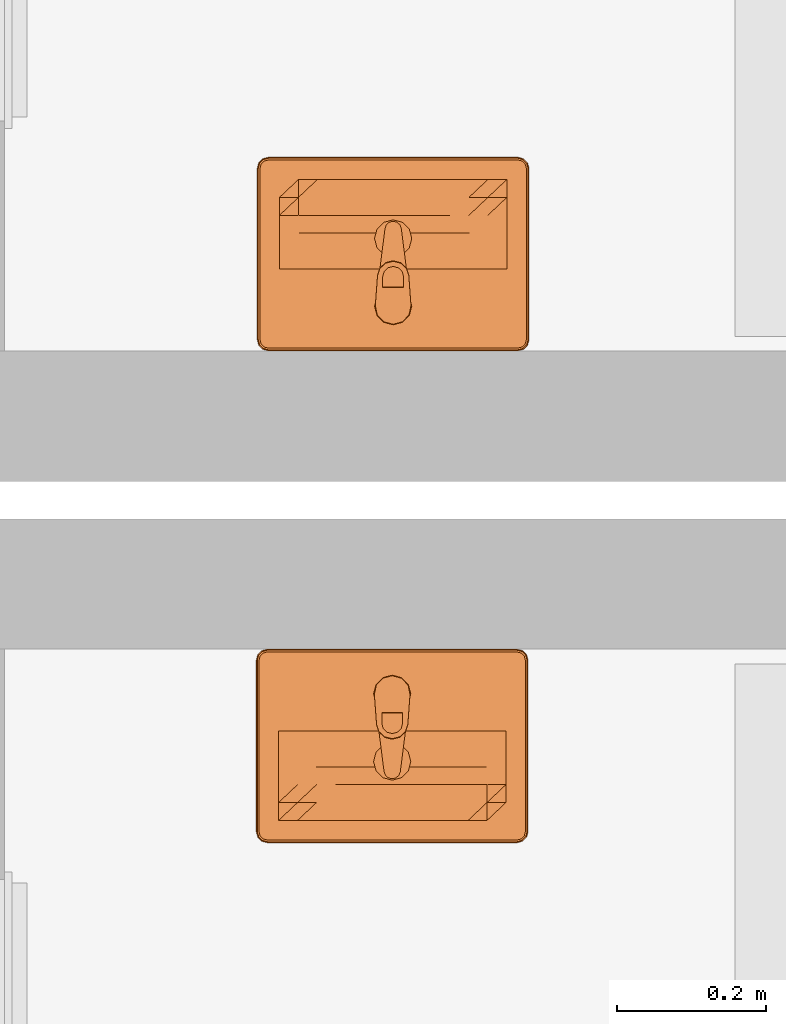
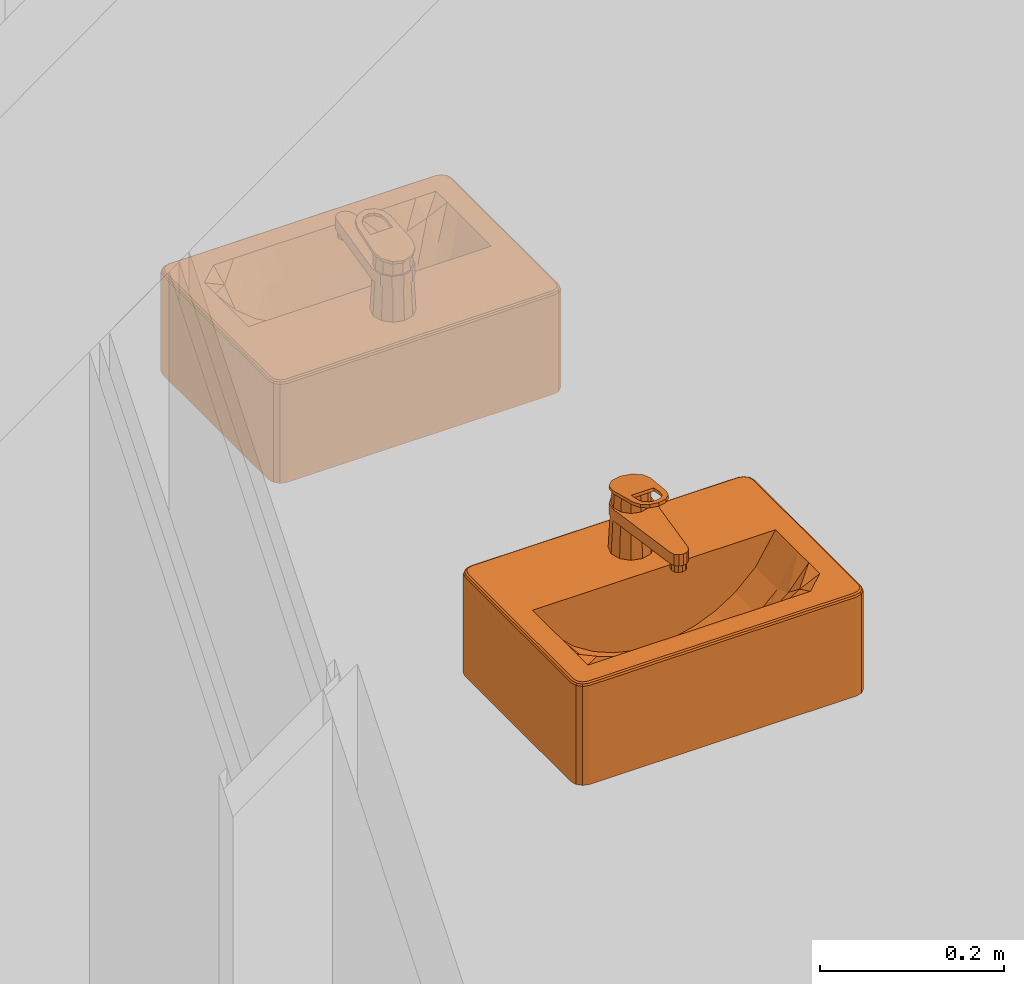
# One storey, part 16 of 28: 2 proxies.
"""IFC4 building model written with IfcOpenShell, lengths in metres."""

from ifc_helpers import new_model, entity, si_unit, converted_unit, derived_unit, direction, frame, origin_with_axes, place, context, subcontext, project, spatial, triangles, source, transform, mapped, type_object, element, save


model = new_model("IFC4")

# Units and contexts
model_context = context("Model", 3, precision=1e-05, world=origin_with_axes(), true_north=direction((-0.526213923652, 0.850352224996)))
body_context = subcontext(model_context, "Body", "Model", "MODEL_VIEW")
ifc_project = project(units=[si_unit("LENGTHUNIT", "METRE"), si_unit("AREAUNIT", "SQUARE_METRE"), si_unit("VOLUMEUNIT", "CUBIC_METRE"), converted_unit("PLANEANGLEUNIT", "DEGREE", entity("IfcPlaneAngleMeasure", 0.0174532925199), si_unit("PLANEANGLEUNIT", "RADIAN"), dimensions=[0, 0, 0, 0, 0, 0, 0]), si_unit("SOLIDANGLEUNIT", "STERADIAN"), converted_unit("TIMEUNIT", "Year", entity("IfcTimeMeasure", 31556926.0), si_unit("TIMEUNIT", "SECOND"), dimensions=[0, 0, 1, 0, 0, 0, 0]), si_unit("MASSUNIT", "GRAM", prefix="KILO"), si_unit("THERMODYNAMICTEMPERATUREUNIT", "DEGREE_CELSIUS"), si_unit("LUMINOUSINTENSITYUNIT", "LUMEN"), si_unit("ENERGYUNIT", "JOULE", prefix="MEGA"), derived_unit("THERMALCONDUCTANCEUNIT", [(si_unit("POWERUNIT", "WATT"), 1), (si_unit("LENGTHUNIT", "METRE"), -1), (si_unit("THERMODYNAMICTEMPERATUREUNIT", "KELVIN"), -1)]), derived_unit("SPECIFICHEATCAPACITYUNIT", [(si_unit("ENERGYUNIT", "JOULE"), 1), (si_unit("MASSUNIT", "GRAM", prefix="KILO"), -1), (si_unit("THERMODYNAMICTEMPERATUREUNIT", "KELVIN"), -1)]), derived_unit("MASSDENSITYUNIT", [(si_unit("MASSUNIT", "GRAM", prefix="KILO"), 1), (si_unit("VOLUMEUNIT", "CUBIC_METRE"), -1)])], contexts=[model_context])

# Site, building, storey, space
site_placement = place(None, origin_with_axes())
site = spatial("IfcSite", under=ifc_project, at=site_placement, Name="Gelände", CompositionType="ELEMENT")
building_placement = place(site_placement, origin_with_axes())
building = spatial("IfcBuilding", under=site, at=building_placement, Name="Haus vom Nikolaus", CompositionType="ELEMENT")
storey_placement = place(building_placement, origin_with_axes())
storey = spatial("IfcBuildingStorey", under=building, at=storey_placement, Name="EG", CompositionType="ELEMENT", Elevation=0.0)
space_placement = place(storey_placement, frame((-3.09538684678, 5.36483190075, 0.0), z_axis=(0.0, 0.0, 1.0), x_axis=(1.0, 0.0, 0.0)))
space = spatial("IfcSpace", under=storey, at=space_placement, Name="EG", CompositionType="ELEMENT")

# Proxies
building_element_proxy_type = type_object("IfcBuildingElementProxyType", Name="Waschbecken 1 22", PredefinedType="NOTDEFINED")
shared_shape = source(origin_with_axes(), body_context, "Body", "Tessellation", [
    triangles([(0.1825, -0.015, 0.865), (0.175, -0.00200961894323, 0.865), (0.180490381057, -0.0075, 0.865), (-0.180490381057, -0.2525, 0.865), (-0.1675, -0.26, 0.865), (-0.175, -0.257990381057, 0.865), (-0.1825, -0.245, 0.865), (-0.1525, -0.11, 0.865), (-0.1825, -0.015, 0.865), (-0.1675, 0.0, 0.865), (-0.175, -0.00200961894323, 0.865), (-0.180490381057, -0.0075, 0.865), (0.1675, 0.0, 0.865), (0.1525, -0.11, 0.865), (0.1525, -0.23, 0.865), (0.1825, -0.245, 0.865), (0.1675, -0.26, 0.865), (0.175, -0.257990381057, 0.865), (0.180490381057, -0.2525, 0.865), (-0.1525, -0.23, 0.865), (-0.167499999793, -0.26000000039, 0.995), (0.167500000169, -0.26000000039, 0.995), (-0.175000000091, -0.257990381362, 0.995), (-0.180490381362, -0.252500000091, 0.995), (-0.18250000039, -0.244999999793, 0.995), (-0.18250000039, -0.0150000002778, 0.995), (-0.180490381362, -0.00749999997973, 0.995), (-0.175000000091, -0.00200961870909, 0.995), (-0.167499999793, 3.18288784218e-10, 0.995), (0.167500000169, 3.18288784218e-10, 0.995), (0.174999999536, -0.00200961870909, 0.995), (0.180490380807, -0.00749999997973, 0.995), (0.182499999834, -0.0150000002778, 0.995), (0.182499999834, -0.244999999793, 0.995), (0.180490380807, -0.252500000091, 0.995), (0.174999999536, -0.257990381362, 0.995), (-0.1525, -0.23, 0.999999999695), (0.1525, -0.23, 0.999999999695), (0.1525, -0.11, 0.999999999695), (-0.1525, -0.11, 0.999999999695), (0.167477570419, -0.259829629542, 0.996294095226), (-0.167477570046, -0.259829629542, 0.996294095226), (-0.174911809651, -0.257837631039, 0.996294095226), (-0.180337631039, -0.252411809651, 0.996294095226), (-0.182329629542, -0.244977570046, 0.996294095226), (-0.182329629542, -0.0150224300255, 0.996294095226), (-0.180337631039, -0.00758819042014, 0.996294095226), (-0.174911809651, -0.00216236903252, 0.996294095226), (-0.167477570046, -0.000170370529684, 0.996294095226), (0.167477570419, -0.000170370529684, 0.996294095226), (0.174911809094, -0.00216236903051, 0.996294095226), (0.180337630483, -0.00758819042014, 0.996294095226), (0.182329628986, -0.0150224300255, 0.996294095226), (0.182329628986, -0.244977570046, 0.996294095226), (0.180337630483, -0.252411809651, 0.996294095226), (0.174911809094, -0.257837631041, 0.996294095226), (-0.172411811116, -0.253507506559, 0.999999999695), (-0.177500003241, -0.24434173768, 0.999999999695), (-0.176007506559, -0.249911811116, 0.999999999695), (-0.177500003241, -0.0156582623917, 0.999999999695), (-0.16684173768, -0.0049999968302, 0.999999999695), (-0.176007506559, -0.0100881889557, 0.999999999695), (-0.172411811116, -0.00649249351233, 0.999999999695), (-0.16684173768, -0.255000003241, 0.999999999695), (0.176007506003, -0.249911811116, 0.999999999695), (0.166841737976, -0.255000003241, 0.999999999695), (0.172411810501, -0.253507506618, 0.999999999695), (0.177500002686, -0.24434173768, 0.999999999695), (0.177500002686, -0.0156582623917, 0.999999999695), (0.166841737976, -0.0049999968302, 0.999999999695), (0.176007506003, -0.0100881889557, 0.999999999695), (0.172411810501, -0.00649249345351, 0.999999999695), (0.167307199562, -0.258535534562, 0.998535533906), (-0.167307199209, -0.258535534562, 0.998535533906), (-0.174241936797, -0.256677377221, 0.998535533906), (-0.179177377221, -0.251741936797, 0.998535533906), (-0.181035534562, -0.244807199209, 0.998535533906), (-0.181035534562, -0.015192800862, 0.998535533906), (-0.179177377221, -0.00825806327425, 0.998535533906), (-0.174241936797, -0.00332262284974, 0.998535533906), (-0.167307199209, -0.00146446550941, 0.998535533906), (0.167307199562, -0.00146446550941, 0.998535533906), (0.174241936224, -0.00332262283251, 0.998535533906), (0.179177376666, -0.00825806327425, 0.998535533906), (0.181035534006, -0.015192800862, 0.998535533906), (0.181035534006, -0.244807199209, 0.998535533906), (0.179177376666, -0.251741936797, 0.998535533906), (0.174241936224, -0.256677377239, 0.998535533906), (-0.167012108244, -0.00370590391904, 0.999829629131), (-0.173081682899, -0.00533224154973, 0.999829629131), (-0.177167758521, -0.00941831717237, 0.999829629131), (-0.178794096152, -0.0154878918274, 0.999829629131), (-0.178794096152, -0.244512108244, 0.999829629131), (-0.177167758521, -0.250581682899, 0.999829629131), (-0.173081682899, -0.254667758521, 0.999829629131), (-0.167012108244, -0.256294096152, 0.999829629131), (0.167012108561, -0.256294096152, 0.999829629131), (0.1730816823, -0.254667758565, 0.999829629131), (0.177167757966, -0.250581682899, 0.999829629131), (0.178794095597, -0.244512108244, 0.999829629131), (0.178794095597, -0.0154878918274, 0.999829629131), (0.177167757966, -0.00941831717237, 0.999829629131), (0.1730816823, -0.00533224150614, 0.999829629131), (0.167012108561, -0.00370590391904, 0.999829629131)], [[1, 2, 3], [4, 5, 6], [7, 5, 4], [8, 7, 9], [8, 9, 10], [11, 9, 12], [8, 13, 14], [10, 9, 11], [2, 1, 13], [15, 16, 17], [14, 16, 15], [18, 16, 19], [16, 18, 17], [20, 17, 5], [7, 20, 5], [16, 14, 1], [20, 15, 17], [1, 14, 13], [7, 8, 20], [13, 8, 10], [21, 17, 22], [21, 5, 17], [23, 5, 21], [23, 6, 5], [24, 6, 23], [24, 4, 6], [7, 24, 25], [24, 7, 4], [26, 7, 25], [26, 9, 7], [27, 9, 26], [27, 12, 9], [28, 12, 27], [28, 11, 12], [10, 28, 29], [28, 10, 11], [13, 29, 30], [29, 13, 10], [31, 13, 30], [31, 2, 13], [32, 2, 31], [32, 3, 2], [1, 32, 33], [32, 1, 3], [16, 33, 34], [33, 16, 1], [35, 16, 34], [35, 19, 16], [18, 35, 36], [35, 18, 19], [17, 36, 22], [36, 17, 18], [15, 37, 38], [15, 20, 37], [14, 38, 39], [14, 15, 38], [8, 39, 40], [8, 14, 39], [20, 40, 37], [20, 8, 40], [21, 41, 42], [41, 21, 22], [43, 21, 42], [43, 23, 21], [44, 23, 43], [44, 24, 23], [25, 44, 45], [44, 25, 24], [26, 45, 46], [45, 26, 25], [47, 26, 46], [47, 27, 26], [48, 27, 47], [48, 28, 27], [29, 48, 49], [48, 29, 28], [50, 29, 49], [50, 30, 29], [51, 30, 50], [51, 31, 30], [52, 31, 51], [52, 32, 31], [33, 52, 53], [52, 33, 32], [34, 53, 54], [53, 34, 33], [55, 34, 54], [55, 35, 34], [36, 55, 56], [55, 36, 35], [22, 56, 41], [56, 22, 36], [57, 58, 59], [60, 61, 62], [62, 61, 63], [40, 58, 37], [64, 58, 57], [37, 58, 64], [65, 66, 67], [68, 66, 65], [39, 69, 70], [70, 71, 72], [69, 39, 68], [71, 70, 69], [58, 40, 60], [38, 64, 66], [39, 61, 40], [60, 40, 61], [38, 68, 39], [61, 39, 70], [64, 38, 37], [68, 38, 66], [42, 73, 74], [73, 42, 41], [75, 42, 74], [75, 43, 42], [76, 43, 75], [76, 44, 43], [45, 76, 77], [76, 45, 44], [78, 45, 77], [78, 46, 45], [79, 46, 78], [79, 47, 46], [80, 47, 79], [80, 48, 47], [49, 80, 81], [80, 49, 48], [82, 49, 81], [82, 50, 49], [83, 50, 82], [83, 51, 50], [84, 51, 83], [84, 52, 51], [53, 84, 85], [84, 53, 52], [86, 53, 85], [86, 54, 53], [87, 54, 86], [87, 55, 54], [56, 87, 88], [87, 56, 55], [41, 88, 73], [88, 41, 56], [89, 63, 61], [63, 89, 90], [90, 62, 63], [62, 90, 91], [62, 92, 60], [62, 91, 92], [92, 58, 60], [58, 92, 93], [93, 59, 58], [59, 93, 94], [59, 95, 57], [59, 94, 95], [57, 96, 64], [57, 95, 96], [96, 66, 64], [66, 96, 97], [97, 67, 66], [67, 97, 98], [98, 65, 67], [65, 98, 99], [65, 100, 68], [65, 99, 100], [68, 101, 69], [68, 100, 101], [101, 71, 69], [71, 101, 102], [71, 103, 72], [71, 102, 103], [72, 104, 70], [72, 103, 104], [70, 89, 61], [70, 104, 89], [74, 97, 96], [97, 74, 73], [95, 74, 96], [95, 75, 74], [76, 95, 94], [95, 76, 75], [77, 94, 93], [94, 77, 76], [78, 93, 92], [93, 78, 77], [91, 78, 92], [91, 79, 78], [90, 79, 91], [90, 80, 79], [81, 90, 89], [90, 81, 80], [104, 81, 89], [104, 82, 81], [103, 82, 104], [103, 83, 82], [102, 83, 103], [102, 84, 83], [85, 102, 101], [102, 85, 84], [86, 101, 100], [101, 86, 85], [99, 86, 100], [99, 87, 86], [88, 99, 98], [99, 88, 87], [73, 98, 97], [98, 73, 88]], closed=True),
    triangles([(0.025, -0.150905, 0.865), (0.1525, -0.23, 0.865), (0.0216506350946, -0.163405, 0.865), (0.0125, -0.129254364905, 0.865), (0.1525, -0.11, 0.865), (0.0216506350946, -0.138405, 0.865), (0.0125, -0.172555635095, 0.865), (0.0, -0.175905, 0.865), (-0.1525, -0.23, 0.865), (-0.0125, -0.129254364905, 0.865), (-0.1525, -0.11, 0.865), (0.0, -0.125905, 0.865), (-0.025, -0.150905, 0.865), (-0.0216506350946, -0.138405, 0.865), (-0.0216506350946, -0.163405, 0.865), (-0.0125, -0.172555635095, 0.865), (-0.1525, -0.158, 1.0), (-0.1525, -0.182, 1.0), (-0.1525, -0.134, 1.0), (-0.1525, -0.11, 1.0), (-0.1525, -0.206, 1.0), (-0.1525, -0.23, 1.0), (0.07625, -0.11, 0.918513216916), (0.101666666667, -0.11, 0.934701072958), (0.127083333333, -0.11, 0.959046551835), (0.1525, -0.11, 1.0), (-0.127083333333, -0.11, 0.959046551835), (-0.101666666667, -0.11, 0.934701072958), (-0.07625, -0.11, 0.918513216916), (-0.0508333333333, -0.11, 0.907960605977), (0.0, -0.11, 0.9), (-0.0254166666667, -0.11, 0.901953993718), (0.0254166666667, -0.11, 0.901953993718), (0.0508333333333, -0.11, 0.907960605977), (0.1525, -0.158, 1.0), (0.1525, -0.182, 1.0), (0.1525, -0.206, 1.0), (0.1525, -0.23, 1.0), (0.1525, -0.134, 1.0), (0.0254166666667, -0.23, 1.0), (0.0508333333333, -0.23, 1.0), (-0.101666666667, -0.23, 1.0), (-0.127083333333, -0.23, 1.0), (-0.07625, -0.23, 1.0), (-0.0508333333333, -0.23, 1.0), (0.127083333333, -0.23, 1.0), (0.101666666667, -0.23, 1.0), (0.07625, -0.23, 1.0), (0.0, -0.23, 1.0), (-0.0254166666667, -0.23, 1.0), (0.0216506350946, -0.163405, 0.905723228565), (0.0125, -0.172555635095, 0.911910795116), (0.022313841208, -0.160929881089, 0.903923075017), (0.0230989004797, -0.158, 0.901775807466), (0.025, -0.150905, 0.901921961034), (0.0216506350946, -0.138405, 0.901664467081), (0.0172456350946, -0.134, 0.901325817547), (0.0125, -0.129254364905, 0.900960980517), (0.0, -0.125905, 0.9), (-0.0125, -0.129254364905, 0.900960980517), (-0.0172456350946, -0.134, 0.901325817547), (-0.0216506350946, -0.138405, 0.901664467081), (-0.025, -0.150905, 0.901921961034), (-0.0230989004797, -0.158, 0.901775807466), (-0.0216506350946, -0.163405, 0.905696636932), (-0.0125, -0.172555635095, 0.91184017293), (-0.013915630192, -0.171140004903, 0.9108723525), (0.0, -0.175905, 0.913491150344), (0.00901209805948, -0.173490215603, 0.912364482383), (-0.127083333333, -0.158, 0.959046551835), (-0.127083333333, -0.134, 0.959046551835), (-0.127083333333, -0.206, 0.988212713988), (-0.127083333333, -0.182, 0.969442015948), (0.101666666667, -0.134, 0.934701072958), (0.07625, -0.134, 0.918513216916), (0.127083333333, -0.134, 0.959046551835), (-0.101666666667, -0.134, 0.934701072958), (-0.07625, -0.134, 0.918513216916), (-0.0508333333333, -0.134, 0.907960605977), (-0.0254166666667, -0.134, 0.901953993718), (0.0254166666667, -0.134, 0.901953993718), (0.0508333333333, -0.134, 0.907960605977), (0.127083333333, -0.182, 0.969442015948), (0.127083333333, -0.206, 0.988212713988), (0.127083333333, -0.158, 0.959046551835), (-0.07625, -0.206, 0.971832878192), (-0.101666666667, -0.206, 0.978894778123), (0.101666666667, -0.206, 0.978894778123), (0.07625, -0.206, 0.971832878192), (0.0508333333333, -0.206, 0.966881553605), (0.0254166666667, -0.206, 0.963946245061), (0.0, -0.206, 0.962973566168), (-0.0254166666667, -0.206, 0.963946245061), (-0.0508333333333, -0.206, 0.966881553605), (0.0254166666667, -0.182, 0.919858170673), (0.0, -0.182, 0.918083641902), (0.0254166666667, -0.158, 0.901953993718), (-0.0254166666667, -0.158, 0.901953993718), (-0.0254166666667, -0.182, 0.919858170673), (-0.101666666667, -0.158, 0.934701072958), (0.101666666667, -0.158, 0.934701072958), (0.07625, -0.158, 0.918513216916), (-0.07625, -0.158, 0.918513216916), (-0.0508333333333, -0.158, 0.907960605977), (0.0508333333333, -0.158, 0.907960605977), (-0.0508333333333, -0.182, 0.925289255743), (-0.101666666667, -0.182, 0.948941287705), (0.07625, -0.182, 0.934734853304), (0.101666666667, -0.182, 0.948941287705), (-0.07625, -0.182, 0.934734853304), (0.0508333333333, -0.182, 0.925289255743)], [[1, 2, 3], [4, 5, 6], [3, 2, 7], [8, 2, 9], [10, 11, 12], [13, 11, 14], [2, 1, 5], [6, 5, 1], [12, 5, 4], [11, 5, 12], [14, 11, 10], [11, 13, 9], [15, 9, 13], [16, 9, 15], [8, 9, 16], [2, 8, 7], [17, 9, 18], [11, 17, 19], [9, 17, 11], [11, 19, 20], [21, 18, 9], [22, 21, 9], [5, 23, 24], [5, 25, 26], [5, 24, 25], [20, 27, 11], [27, 28, 11], [28, 29, 11], [29, 30, 11], [31, 11, 32], [30, 32, 11], [11, 31, 5], [31, 33, 5], [34, 23, 5], [33, 34, 5], [5, 35, 2], [2, 36, 37], [2, 35, 36], [2, 37, 38], [39, 35, 5], [39, 5, 26], [40, 2, 41], [9, 42, 43], [9, 44, 42], [9, 43, 22], [45, 44, 9], [46, 2, 38], [47, 2, 46], [48, 2, 47], [41, 2, 48], [49, 2, 40], [2, 49, 9], [50, 9, 49], [45, 9, 50], [7, 51, 3], [51, 7, 52], [53, 54, 3], [3, 54, 1], [1, 54, 55], [53, 3, 51], [1, 56, 6], [56, 1, 55], [4, 57, 58], [6, 57, 4], [57, 6, 56], [4, 59, 12], [59, 4, 58], [12, 59, 10], [10, 59, 60], [14, 61, 62], [10, 61, 14], [61, 10, 60], [13, 62, 63], [13, 14, 62], [13, 63, 64], [65, 15, 64], [13, 64, 15], [66, 16, 67], [65, 16, 15], [16, 65, 67], [16, 66, 8], [8, 66, 68], [8, 69, 7], [7, 69, 52], [68, 69, 8], [17, 18, 70], [19, 70, 71], [19, 17, 70], [20, 71, 27], [20, 19, 71], [21, 22, 72], [18, 21, 73], [23, 74, 24], [23, 75, 74], [24, 76, 25], [24, 74, 76], [25, 39, 26], [25, 76, 39], [27, 77, 28], [27, 71, 77], [28, 78, 29], [28, 77, 78], [29, 79, 30], [29, 78, 79], [30, 80, 32], [30, 79, 80], [80, 61, 60], [31, 32, 60], [31, 60, 59], [80, 60, 32], [31, 59, 58], [31, 58, 33], [81, 58, 57], [81, 33, 58], [33, 82, 34], [33, 81, 82], [34, 75, 23], [34, 82, 75], [35, 83, 36], [36, 84, 37], [37, 46, 38], [76, 35, 39], [76, 85, 35], [86, 42, 44], [87, 43, 42], [72, 22, 43], [84, 47, 46], [88, 48, 47], [89, 41, 48], [90, 40, 41], [91, 49, 40], [92, 50, 49], [93, 45, 50], [94, 44, 45], [69, 95, 52], [95, 69, 96], [51, 97, 53], [51, 52, 95], [97, 51, 95], [97, 81, 55], [81, 57, 56], [97, 55, 54], [55, 81, 56], [97, 54, 53], [64, 63, 98], [80, 62, 61], [80, 98, 63], [63, 62, 80], [99, 67, 65], [98, 99, 65], [98, 65, 64], [96, 66, 99], [99, 66, 67], [68, 66, 96], [96, 69, 68], [70, 18, 73], [71, 100, 77], [71, 70, 100], [73, 21, 72], [75, 101, 74], [75, 102, 101], [74, 85, 76], [74, 101, 85], [77, 103, 78], [77, 100, 103], [78, 104, 79], [78, 103, 104], [79, 98, 80], [79, 104, 98], [81, 105, 82], [81, 97, 105], [82, 102, 75], [82, 105, 102], [83, 84, 36], [85, 83, 35], [84, 46, 37], [86, 44, 94], [87, 42, 86], [72, 43, 87], [88, 47, 84], [89, 48, 88], [90, 41, 89], [91, 40, 90], [92, 49, 91], [93, 50, 92], [94, 45, 93], [96, 92, 95], [97, 95, 105], [98, 106, 99], [99, 93, 96], [70, 73, 100], [73, 72, 107], [102, 108, 101], [101, 109, 85], [100, 107, 103], [103, 110, 104], [104, 106, 98], [105, 111, 102], [83, 88, 84], [85, 109, 83], [106, 86, 94], [110, 87, 86], [107, 72, 87], [109, 89, 88], [108, 90, 89], [111, 91, 90], [95, 92, 91], [96, 93, 92], [99, 94, 93], [105, 95, 111], [106, 94, 99], [100, 73, 107], [101, 108, 109], [102, 111, 108], [103, 107, 110], [104, 110, 106], [109, 88, 83], [110, 86, 106], [107, 87, 110], [108, 89, 109], [111, 90, 108], [95, 91, 111]], closed=True),
    triangles([(-0.0125, -0.129254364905, 0.9), (-0.0216506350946, -0.163405, 0.9), (-0.0216506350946, -0.138405, 0.9), (0.0, -0.175905, 0.9), (-0.0125, -0.172555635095, 0.9), (0.0216506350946, -0.163405, 0.9), (0.0125, -0.172555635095, 0.9), (-0.025, -0.150905, 0.9), (0.0125, -0.129254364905, 0.9), (0.0, -0.125905, 0.9), (0.025, -0.150905, 0.9), (0.0216506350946, -0.138405, 0.9), (0.0216506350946, -0.163405, 0.905), (0.0125, -0.172555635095, 0.905), (0.0, -0.175905, 0.905), (-0.0125, -0.172555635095, 0.905), (-0.0216506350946, -0.163405, 0.905), (-0.025, -0.150905, 0.905), (-0.0216506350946, -0.138405, 0.905), (-0.0125, -0.129254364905, 0.905), (0.0, -0.125905, 0.905), (0.0125, -0.129254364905, 0.905), (0.0216506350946, -0.138405, 0.905), (0.025, -0.150905, 0.905)], [[1, 2, 3], [2, 4, 5], [4, 6, 7], [4, 2, 6], [2, 1, 6], [3, 2, 8], [9, 1, 10], [1, 9, 6], [11, 6, 12], [9, 12, 6], [13, 7, 6], [13, 14, 7], [14, 4, 7], [14, 15, 4], [15, 5, 4], [15, 16, 5], [16, 2, 5], [16, 17, 2], [17, 8, 2], [17, 18, 8], [18, 3, 8], [18, 19, 3], [19, 1, 3], [19, 20, 1], [20, 10, 1], [20, 21, 10], [21, 9, 10], [21, 22, 9], [22, 12, 9], [22, 23, 12], [23, 11, 12], [23, 24, 11], [24, 6, 11], [24, 13, 6], [19, 16, 20], [22, 13, 23], [23, 13, 24], [15, 22, 21], [17, 19, 18], [16, 19, 17], [20, 16, 21], [15, 21, 16], [14, 13, 15], [22, 15, 13]], closed=True),
    triangles([(-0.00631095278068, -0.13997410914, 0.90649757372), (0.0, -0.150905, 0.907), (0.0, -0.138283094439, 0.90649757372), (0.00631095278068, -0.13997410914, 0.90649757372), (0.0, -0.125905, 0.905), (-0.0125, -0.129254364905, 0.905), (-0.0109308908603, -0.144594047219, 0.90649757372), (0.0109308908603, -0.144594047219, 0.90649757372), (0.0125, -0.129254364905, 0.905), (-0.0216506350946, -0.138405, 0.905), (-0.0126219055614, -0.150905, 0.90649757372), (0.0126219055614, -0.150905, 0.90649757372), (0.0216506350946, -0.138405, 0.905), (-0.025, -0.150905, 0.905), (-0.0109308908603, -0.157215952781, 0.90649757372), (0.0109308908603, -0.157215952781, 0.90649757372), (0.025, -0.150905, 0.905), (-0.0216506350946, -0.163405, 0.905), (-0.00631095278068, -0.16183589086, 0.90649757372), (0.00631095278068, -0.16183589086, 0.90649757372), (0.0216506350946, -0.163405, 0.905), (-0.0125, -0.172555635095, 0.905), (0.0, -0.163526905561, 0.90649757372), (0.0125, -0.172555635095, 0.905), (0.0, -0.175905, 0.905)], [[1, 2, 3], [3, 2, 4], [5, 6, 1], [5, 1, 3], [7, 2, 1], [4, 2, 8], [4, 5, 3], [5, 4, 9], [6, 10, 7], [6, 7, 1], [11, 2, 7], [8, 2, 12], [8, 9, 4], [9, 8, 13], [10, 14, 11], [10, 11, 7], [15, 2, 11], [12, 2, 16], [12, 13, 8], [13, 12, 17], [11, 18, 15], [18, 11, 14], [19, 2, 15], [16, 2, 20], [21, 17, 12], [21, 12, 16], [15, 22, 19], [22, 15, 18], [23, 2, 19], [20, 2, 23], [20, 21, 16], [21, 20, 24], [19, 25, 23], [25, 19, 22], [25, 24, 20], [25, 20, 23]], closed=False),
    triangles([(0.0, -0.0387980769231, 1.07596153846), (0.0125, -0.0383493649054, 1.0), (0.0, -0.035, 1.0), (0.0105873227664, -0.0416622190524, 1.07650708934), (-0.0125, -0.0816506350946, 1.0), (-0.025, -0.06, 1.0), (0.025, -0.06, 1.0), (0.0125, -0.0816506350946, 1.0), (0.0216506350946, -0.0475, 1.0), (0.0216506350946, -0.0725, 1.0), (0.0, -0.085, 1.0), (-0.0216506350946, -0.0725, 1.0), (-0.0125, -0.0383493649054, 1.0), (-0.0216506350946, -0.0475, 1.0), (-0.0105873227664, -0.0416622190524, 1.07650708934), (0.0104141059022, -0.078037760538, 1.08343576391), (-0.0104141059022, -0.078037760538, 1.08343576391), (0.0, -0.0808018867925, 1.08396226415), (0.0182735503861, -0.0494497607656, 1.07799043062), (-0.0182735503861, -0.0494497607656, 1.07799043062), (0.021, -0.06, 1.08), (-0.021, -0.06, 1.08), (0.0181003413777, -0.0704502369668, 1.08199052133), (-0.0181003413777, -0.0704502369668, 1.08199052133)], [[1, 2, 3], [1, 4, 2], [3, 5, 6], [7, 8, 9], [8, 7, 10], [11, 9, 8], [6, 5, 12], [5, 9, 11], [5, 3, 9], [13, 6, 14], [9, 3, 2], [3, 6, 13], [1, 13, 15], [13, 1, 3], [16, 17, 18], [19, 15, 20], [15, 4, 1], [21, 22, 23], [17, 23, 24], [23, 17, 16], [24, 23, 22], [19, 22, 21], [15, 19, 4], [22, 19, 20], [4, 9, 2], [4, 19, 9], [19, 7, 9], [19, 21, 7], [21, 10, 7], [21, 23, 10], [23, 8, 10], [23, 16, 8], [16, 11, 8], [16, 18, 11], [17, 11, 18], [11, 17, 5], [24, 5, 17], [5, 24, 12], [22, 12, 24], [12, 22, 6], [20, 6, 22], [6, 20, 14], [15, 14, 20], [14, 15, 13]], closed=True),
    triangles([(0.00779422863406, -0.1585, 1.045), (0.009, -0.163, 1.035), (0.00779422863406, -0.1585, 1.035), (0.009, -0.163, 1.045), (0.00779422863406, -0.1675, 1.035), (-0.009, -0.163, 1.035), (0.0, -0.172, 1.035), (0.0045, -0.170794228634, 1.035), (-0.00779422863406, -0.1675, 1.035), (-0.0045, -0.170794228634, 1.035), (0.0, -0.154, 1.035), (-0.00779422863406, -0.1585, 1.035), (-0.0045, -0.155205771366, 1.035), (0.0045, -0.155205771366, 1.035), (0.0045, -0.155205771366, 1.045), (-0.00779422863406, -0.1675, 1.045), (-0.00779422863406, -0.1585, 1.045), (-0.009, -0.163, 1.045), (0.0, -0.154, 1.045), (-0.0045, -0.155205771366, 1.045), (-0.0045, -0.170794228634, 1.045), (0.00779422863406, -0.1675, 1.045), (0.0, -0.172, 1.045), (0.0045, -0.170794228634, 1.045)], [[1, 2, 3], [1, 4, 2], [5, 6, 2], [6, 5, 7], [7, 5, 8], [9, 7, 10], [11, 12, 13], [6, 7, 9], [12, 11, 6], [3, 6, 11], [6, 3, 2], [3, 11, 14], [15, 3, 14], [15, 1, 3], [16, 17, 18], [1, 19, 4], [19, 1, 15], [17, 19, 20], [21, 17, 16], [19, 17, 4], [22, 17, 21], [22, 23, 24], [17, 22, 4], [23, 22, 21], [4, 5, 2], [4, 22, 5], [22, 8, 5], [22, 24, 8], [24, 7, 8], [24, 23, 7], [23, 10, 7], [23, 21, 10], [21, 9, 10], [21, 16, 9], [16, 6, 9], [16, 18, 6], [18, 12, 6], [18, 17, 12], [17, 13, 12], [17, 20, 13], [20, 11, 13], [20, 19, 11], [19, 14, 11], [19, 15, 14]], closed=True),
    triangles([(3.62679860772e-08, -0.17399996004, 1.06), (0.00902891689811, -0.169283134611, 1.06), (-0.00509332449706, -0.172749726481, 1.06), (1.01998896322e-09, -0.036000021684, 1.06), (0.011, -0.0409474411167, 1.06), (0.0128717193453, -0.0397436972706, 1.06), (0.00509338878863, -0.172749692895, 1.06), (-0.010911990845, -0.164388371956, 1.06), (-0.00902887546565, -0.169283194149, 1.06), (0.011, -0.0790525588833, 1.06), (0.010912, -0.1643883, 1.06), (0.0190525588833, -0.071, 1.06), (0.022, -0.06, 1.06), (0.0238053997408, -0.0630499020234, 1.06), (0.0190525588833, -0.049, 1.06), (0.0217278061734, -0.049806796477, 1.06), (0.0, -0.082, 1.06), (-0.011, -0.0790525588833, 1.06), (-0.0190525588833, -0.071, 1.06), (-0.0238054, -0.0630499, 1.06), (-0.022, -0.06, 1.06), (-0.021727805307, -0.0498067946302, 1.06), (-0.0190525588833, -0.049, 1.06), (-0.0128717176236, -0.0397436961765, 1.06), (-0.011, -0.0409474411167, 1.06), (0.0, -0.038, 1.06), (-0.021727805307, -0.0498067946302, 1.045), (-0.0128717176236, -0.0397436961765, 1.045), (-0.0238054, -0.0630499, 1.045), (-0.010911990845, -0.164388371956, 1.045), (-0.00902887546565, -0.169283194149, 1.045), (-0.00509332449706, -0.172749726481, 1.045), (3.62679860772e-08, -0.17399996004, 1.045), (0.00509338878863, -0.172749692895, 1.045), (0.00902891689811, -0.169283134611, 1.045), (0.010912, -0.1643883, 1.045), (0.0238053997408, -0.0630499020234, 1.045), (0.0217278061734, -0.049806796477, 1.045), (0.0128717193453, -0.0397436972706, 1.045), (1.01998896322e-09, -0.036000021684, 1.045), (0.011375, -0.0402979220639, 1.045), (0.0197020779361, -0.048625, 1.045), (0.02275, -0.06, 1.045), (0.0197020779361, -0.071375, 1.045), (0.011375, -0.0797020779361, 1.045), (0.0, -0.08275, 1.045), (-0.011375, -0.0797020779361, 1.045), (-0.0197020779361, -0.071375, 1.045), (-0.02275, -0.06, 1.045), (-0.0197020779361, -0.048625, 1.045), (-0.011375, -0.0402979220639, 1.045), (0.0, -0.03725, 1.045)], [[1, 2, 3], [4, 5, 6], [2, 1, 7], [3, 8, 9], [3, 2, 8], [10, 11, 12], [11, 8, 2], [13, 12, 14], [15, 6, 5], [16, 13, 14], [6, 15, 16], [13, 16, 15], [14, 12, 11], [17, 11, 10], [11, 17, 8], [17, 18, 8], [19, 20, 8], [18, 19, 8], [21, 22, 20], [19, 21, 20], [23, 24, 22], [21, 23, 22], [25, 4, 24], [23, 25, 24], [26, 5, 4], [25, 26, 4], [24, 27, 22], [24, 28, 27], [22, 29, 20], [22, 27, 29], [20, 30, 8], [20, 29, 30], [8, 31, 9], [8, 30, 31], [9, 32, 3], [9, 31, 32], [3, 33, 1], [3, 32, 33], [1, 34, 7], [1, 33, 34], [7, 35, 2], [7, 34, 35], [2, 36, 11], [2, 35, 36], [11, 37, 14], [11, 36, 37], [14, 38, 16], [14, 37, 38], [16, 39, 6], [16, 38, 39], [6, 40, 4], [6, 39, 40], [4, 28, 24], [4, 40, 28], [15, 41, 42], [15, 5, 41], [13, 42, 43], [13, 15, 42], [13, 44, 12], [44, 13, 43], [12, 45, 10], [45, 12, 44], [17, 45, 46], [17, 10, 45], [46, 18, 17], [46, 47, 18], [47, 19, 18], [47, 48, 19], [49, 19, 48], [19, 49, 21], [50, 21, 49], [21, 50, 23], [51, 23, 50], [23, 51, 25], [26, 51, 52], [26, 25, 51], [5, 52, 41], [5, 26, 52], [43, 37, 44], [30, 33, 31], [31, 33, 32], [52, 40, 41], [40, 51, 28], [30, 29, 48], [42, 38, 43], [41, 39, 42], [46, 30, 47], [49, 48, 29], [30, 35, 33], [35, 30, 36], [34, 33, 35], [28, 50, 27], [44, 36, 45], [27, 49, 29], [36, 44, 37], [37, 43, 38], [38, 42, 39], [39, 41, 40], [51, 40, 52], [50, 28, 51], [49, 27, 50], [48, 47, 30], [46, 45, 36], [30, 46, 36]], closed=True),
    triangles([(0.023893, -0.0609441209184, 1.08425174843), (0.0212964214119, -0.049225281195, 1.07794767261), (0.0212964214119, -0.0484768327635, 1.08187702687), (0.023893, -0.0616925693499, 1.08032239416), (-0.0124716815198, -0.0399088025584, 1.07617310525), (-0.023893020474, -0.0616922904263, 1.08032234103), (-0.0212962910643, -0.0492250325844, 1.07794762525), (-0.014, -0.100356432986, 1.08768693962), (-0.020946, -0.101835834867, 1.08796873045), (-0.014, -0.085540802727, 1.08486491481), (0.014, -0.085540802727, 1.08486491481), (0.0124719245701, -0.0399089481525, 1.07617313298), (1.42337785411e-07, -0.0364680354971, 1.07551772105), (0.0209459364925, -0.101836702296, 1.08796889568), (-0.012124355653, -0.107232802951, 1.08899672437), (-0.0176636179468, -0.111513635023, 1.08981212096), (-0.007, -0.112266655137, 1.08995555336), (-0.0100622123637, -0.118463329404, 1.09113587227), (0.0, -0.114109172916, 1.09030650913), (-4.42652908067e-07, -0.12098561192, 1.09161630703), (0.007, -0.112266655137, 1.08995555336), (0.0100614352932, -0.118463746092, 1.09113595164), (0.012124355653, -0.107232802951, 1.08899672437), (0.0176631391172, -0.111514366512, 1.08981226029), (0.014, -0.100356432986, 1.08768693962), (0.0124719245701, -0.0391604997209, 1.08010248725), (-0.0124716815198, -0.0391603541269, 1.08010245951), (-0.023893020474, -0.0609438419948, 1.0842516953), (1.42337785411e-07, -0.0357195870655, 1.07944707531), (-0.0212962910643, -0.0484765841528, 1.08187697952), (0.0, -0.113360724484, 1.09423586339), (0.0100614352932, -0.11771529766, 1.0950653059), (0.007, -0.111518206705, 1.09388490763), (-0.014, -0.0847923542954, 1.08879426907), (-0.020946, -0.101087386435, 1.09189808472), (-0.014, -0.0996079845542, 1.09161629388), (0.012124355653, -0.106484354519, 1.09292607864), (0.0209459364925, -0.101088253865, 1.09189824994), (0.014, -0.0996079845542, 1.09161629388), (0.0176631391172, -0.11076591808, 1.09374161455), (0.014, -0.0847923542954, 1.08879426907), (-4.42652908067e-07, -0.120237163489, 1.0955456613), (-0.0100622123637, -0.117714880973, 1.09506522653), (-0.007, -0.111518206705, 1.09388490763), (-0.0176636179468, -0.110765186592, 1.09374147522), (-0.012124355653, -0.106484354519, 1.09292607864)], [[1, 2, 3], [2, 1, 4], [5, 6, 7], [8, 9, 10], [10, 4, 11], [6, 5, 4], [5, 12, 4], [12, 5, 13], [2, 4, 12], [11, 4, 14], [10, 9, 6], [4, 10, 6], [9, 15, 16], [15, 9, 8], [16, 17, 18], [17, 16, 15], [18, 19, 20], [19, 18, 17], [21, 22, 19], [20, 19, 22], [23, 24, 21], [22, 21, 24], [24, 23, 14], [25, 11, 14], [23, 25, 14], [3, 12, 26], [12, 3, 2], [27, 28, 1], [27, 3, 29], [29, 3, 26], [3, 27, 1], [28, 27, 30], [31, 32, 33], [34, 35, 36], [37, 38, 39], [33, 40, 37], [39, 38, 41], [42, 31, 43], [41, 38, 1], [34, 1, 28], [43, 44, 45], [36, 35, 46], [38, 37, 40], [45, 46, 35], [40, 33, 32], [32, 31, 42], [44, 43, 31], [46, 45, 44], [35, 34, 28], [1, 34, 41], [1, 14, 4], [1, 38, 14], [40, 14, 38], [14, 40, 24], [40, 22, 24], [40, 32, 22], [32, 20, 22], [32, 42, 20], [43, 20, 42], [20, 43, 18], [45, 18, 43], [18, 45, 16], [35, 16, 45], [16, 35, 9], [35, 6, 9], [35, 28, 6], [30, 6, 28], [6, 30, 7], [30, 5, 7], [30, 27, 5], [29, 5, 27], [5, 29, 13], [29, 12, 13], [29, 26, 12], [41, 10, 11], [41, 34, 10], [34, 8, 10], [34, 36, 8], [46, 8, 36], [8, 46, 15], [44, 15, 46], [15, 44, 17], [44, 19, 17], [44, 31, 19], [31, 21, 19], [31, 33, 21], [37, 21, 33], [21, 37, 23], [37, 25, 23], [37, 39, 25], [39, 11, 25], [39, 41, 11]], closed=True),
])
for number, where, z_axis, x_axis, name in (
    (1, (7.05567457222, 1.87521670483, 0.2), (0.0, 0.0, 1.0), (1.0, 0.0, 0.0), "Objekt-002"),
    (2, (7.05696950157, 2.27521670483, 0.2), (0.0, 0.0, 1.0), (-1.0, 0.0, 0.0), "Objekt-001"),
):
    element("IfcBuildingElementProxy", number, at=place(space_placement, frame(where, z_axis=z_axis, x_axis=x_axis)), inside=space, type_object=building_element_proxy_type, Name=name, PredefinedType="NOTDEFINED", context=body_context, shape_type="MappedRepresentation", body=[
        mapped(shared_shape, transform((0.0, 0.0, 0.0))),
    ])

save(model, "model.ifc")
